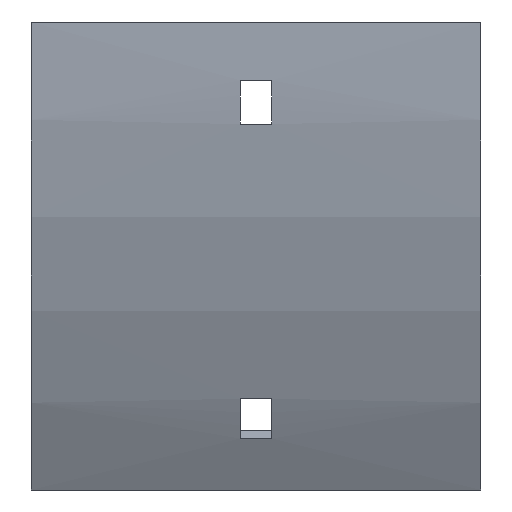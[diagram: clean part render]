
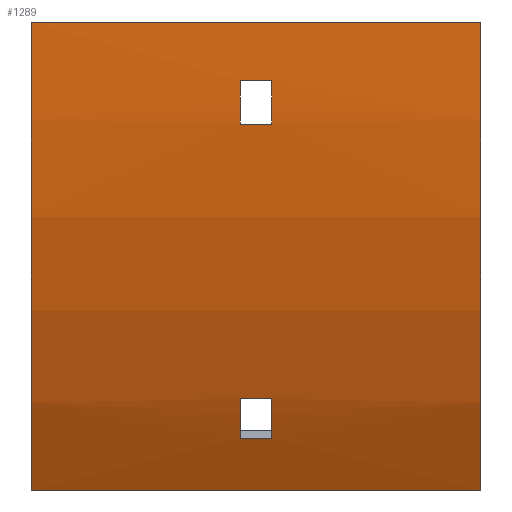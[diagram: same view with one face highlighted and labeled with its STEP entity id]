
A CAD part, front view. The second image highlights one B-rep face of the part: STEP entity #1289.
In plain terms, the highlighted cylindrical face has radius 192.5 mm (diameter 385 mm), a partial arc.
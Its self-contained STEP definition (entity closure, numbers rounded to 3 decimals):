
#9 = EDGE_CURVE ( 'NONE', #165, #1529, #57, .T. ) ;
#10 = CARTESIAN_POINT ( 'NONE',  ( -3.25, -91.351, -21. ) ) ;
#26 = CARTESIAN_POINT ( 'NONE',  ( 46.25, -92.5, 0. ) ) ;
#28 = EDGE_CURVE ( 'NONE', #845, #208, #1522, .T. ) ;
#46 = CYLINDRICAL_SURFACE ( 'NONE', #563, 192.5 ) ;
#57 = CIRCLE ( 'NONE', #1500, 192.5 ) ;
#78 = CARTESIAN_POINT ( 'NONE',  ( -3.25, -72.386, -85.671 ) ) ;
#83 = DIRECTION ( 'NONE',  ( 1., 0., 0. ) ) ;
#85 = VECTOR ( 'NONE', #467, 1000. ) ;
#103 = CARTESIAN_POINT ( 'NONE',  ( 3.25, 100., 0. ) ) ;
#113 = EDGE_LOOP ( 'NONE', ( #202, #122, #345, #1007 ) ) ;
#122 = ORIENTED_EDGE ( 'NONE', *, *, #172, .T. ) ;
#150 = DIRECTION ( 'NONE',  ( -1., 0., 0. ) ) ;
#155 = VERTEX_POINT ( 'NONE', #228 ) ;
#158 = FACE_BOUND ( 'NONE', #113, .T. ) ;
#165 = VERTEX_POINT ( 'NONE', #941 ) ;
#172 = EDGE_CURVE ( 'NONE', #809, #845, #1345, .T. ) ;
#179 = VERTEX_POINT ( 'NONE', #675 ) ;
#181 = FACE_BOUND ( 'NONE', #957, .T. ) ;
#196 = VECTOR ( 'NONE', #294, 1000. ) ;
#202 = ORIENTED_EDGE ( 'NONE', *, *, #1510, .T. ) ;
#208 = VERTEX_POINT ( 'NONE', #426 ) ;
#228 = CARTESIAN_POINT ( 'NONE',  ( -46.25, -66.71, -96.25 ) ) ;
#230 = ORIENTED_EDGE ( 'NONE', *, *, #791, .F. ) ;
#234 = LINE ( 'NONE', #337, #1060 ) ;
#278 = CARTESIAN_POINT ( 'NONE',  ( 3.25, -91.351, -21. ) ) ;
#284 = CARTESIAN_POINT ( 'NONE',  ( -3.25, 100., 0. ) ) ;
#294 = DIRECTION ( 'NONE',  ( -1., 0., 0. ) ) ;
#334 = ORIENTED_EDGE ( 'NONE', *, *, #1422, .F. ) ;
#337 = CARTESIAN_POINT ( 'NONE',  ( 46.25, -66.71, -96.25 ) ) ;
#342 = DIRECTION ( 'NONE',  ( 1., 0., 0. ) ) ;
#345 = ORIENTED_EDGE ( 'NONE', *, *, #28, .T. ) ;
#357 = DIRECTION ( 'NONE',  ( -1., 0., 0. ) ) ;
#376 = ORIENTED_EDGE ( 'NONE', *, *, #935, .T. ) ;
#403 = DIRECTION ( 'NONE',  ( 0., 0., 1. ) ) ;
#405 = AXIS2_PLACEMENT_3D ( 'NONE', #543, #1438, #1065 ) ;
#423 = VECTOR ( 'NONE', #357, 1000. ) ;
#426 = CARTESIAN_POINT ( 'NONE',  ( 3.25, -92.126, -12. ) ) ;
#428 = EDGE_CURVE ( 'NONE', #1529, #1334, #782, .T. ) ;
#447 = CARTESIAN_POINT ( 'NONE',  ( 46.25, 100., 0. ) ) ;
#460 = DIRECTION ( 'NONE',  ( -1., 0., 0. ) ) ;
#467 = DIRECTION ( 'NONE',  ( 1., 0., 0. ) ) ;
#477 = AXIS2_PLACEMENT_3D ( 'NONE', #1207, #689, #1601 ) ;
#506 = VERTEX_POINT ( 'NONE', #980 ) ;
#541 = EDGE_LOOP ( 'NONE', ( #376, #334, #1279, #1674 ) ) ;
#543 = CARTESIAN_POINT ( 'NONE',  ( -3.25, 100., 0. ) ) ;
#545 = DIRECTION ( 'NONE',  ( 1., 0., 0. ) ) ;
#563 = AXIS2_PLACEMENT_3D ( 'NONE', #447, #1480, #582 ) ;
#582 = DIRECTION ( 'NONE',  ( 0., 0., 1. ) ) ;
#611 = CIRCLE ( 'NONE', #1054, 192.5 ) ;
#633 = EDGE_CURVE ( 'NONE', #208, #1616, #846, .T. ) ;
#675 = CARTESIAN_POINT ( 'NONE',  ( 46.25, -66.71, -96.25 ) ) ;
#689 = DIRECTION ( 'NONE',  ( 1., 0., 0. ) ) ;
#711 = FACE_OUTER_BOUND ( 'NONE', #541, .T. ) ;
#737 = EDGE_CURVE ( 'NONE', #784, #179, #611, .T. ) ;
#748 = CARTESIAN_POINT ( 'NONE',  ( 46.25, -91.351, -21. ) ) ;
#766 = DIRECTION ( 'NONE',  ( -1., 0., 0. ) ) ;
#773 = AXIS2_PLACEMENT_3D ( 'NONE', #284, #150, #403 ) ;
#782 = LINE ( 'NONE', #1681, #792 ) ;
#784 = VERTEX_POINT ( 'NONE', #26 ) ;
#791 = EDGE_CURVE ( 'NONE', #1464, #165, #1188, .T. ) ;
#792 = VECTOR ( 'NONE', #766, 1000. ) ;
#809 = VERTEX_POINT ( 'NONE', #10 ) ;
#845 = VERTEX_POINT ( 'NONE', #1688 ) ;
#846 = CIRCLE ( 'NONE', #1075, 192.5 ) ;
#862 = DIRECTION ( 'NONE',  ( 0., 0., -1. ) ) ;
#895 = CARTESIAN_POINT ( 'NONE',  ( 3.25, -76.215, -77.489 ) ) ;
#913 = EDGE_CURVE ( 'NONE', #784, #506, #1228, .T. ) ;
#935 = EDGE_CURVE ( 'NONE', #506, #155, #1484, .T. ) ;
#941 = CARTESIAN_POINT ( 'NONE',  ( 3.25, -72.386, -85.671 ) ) ;
#957 = EDGE_LOOP ( 'NONE', ( #1443, #1509, #1518, #230 ) ) ;
#975 = DIRECTION ( 'NONE',  ( -1., 0., 0. ) ) ;
#976 = CARTESIAN_POINT ( 'NONE',  ( 46.25, -92.5, 0. ) ) ;
#980 = CARTESIAN_POINT ( 'NONE',  ( -46.25, -92.5, 0. ) ) ;
#990 = CARTESIAN_POINT ( 'NONE',  ( 46.25, 100., 0. ) ) ;
#1007 = ORIENTED_EDGE ( 'NONE', *, *, #633, .T. ) ;
#1048 = VECTOR ( 'NONE', #545, 1000. ) ;
#1054 = AXIS2_PLACEMENT_3D ( 'NONE', #990, #342, #862 ) ;
#1060 = VECTOR ( 'NONE', #975, 1000. ) ;
#1065 = DIRECTION ( 'NONE',  ( 0., 0., -1. ) ) ;
#1075 = AXIS2_PLACEMENT_3D ( 'NONE', #103, #83, #1131 ) ;
#1120 = CARTESIAN_POINT ( 'NONE',  ( 3.25, 100., 0. ) ) ;
#1131 = DIRECTION ( 'NONE',  ( 0., 0., -1. ) ) ;
#1188 = LINE ( 'NONE', #1454, #1048 ) ;
#1207 = CARTESIAN_POINT ( 'NONE',  ( -46.25, 100., 0. ) ) ;
#1218 = CIRCLE ( 'NONE', #405, 192.5 ) ;
#1219 = EDGE_CURVE ( 'NONE', #1334, #1464, #1218, .T. ) ;
#1228 = LINE ( 'NONE', #976, #196 ) ;
#1279 = ORIENTED_EDGE ( 'NONE', *, *, #737, .F. ) ;
#1289 = ADVANCED_FACE ( 'NONE', ( #711, #158, #181 ), #46, .T. ) ;
#1334 = VERTEX_POINT ( 'NONE', #1600 ) ;
#1345 = CIRCLE ( 'NONE', #773, 192.5 ) ;
#1402 = CARTESIAN_POINT ( 'NONE',  ( 46.25, -92.126, -12. ) ) ;
#1422 = EDGE_CURVE ( 'NONE', #179, #155, #234, .T. ) ;
#1438 = DIRECTION ( 'NONE',  ( 1., 0., 0. ) ) ;
#1443 = ORIENTED_EDGE ( 'NONE', *, *, #1219, .F. ) ;
#1454 = CARTESIAN_POINT ( 'NONE',  ( 46.25, -72.386, -85.671 ) ) ;
#1464 = VERTEX_POINT ( 'NONE', #78 ) ;
#1480 = DIRECTION ( 'NONE',  ( -1., 0., 0. ) ) ;
#1484 = CIRCLE ( 'NONE', #477, 192.5 ) ;
#1500 = AXIS2_PLACEMENT_3D ( 'NONE', #1120, #460, #1634 ) ;
#1509 = ORIENTED_EDGE ( 'NONE', *, *, #428, .F. ) ;
#1510 = EDGE_CURVE ( 'NONE', #1616, #809, #1661, .T. ) ;
#1518 = ORIENTED_EDGE ( 'NONE', *, *, #9, .F. ) ;
#1522 = LINE ( 'NONE', #1402, #85 ) ;
#1529 = VERTEX_POINT ( 'NONE', #895 ) ;
#1600 = CARTESIAN_POINT ( 'NONE',  ( -3.25, -76.215, -77.489 ) ) ;
#1601 = DIRECTION ( 'NONE',  ( 0., 0., -1. ) ) ;
#1616 = VERTEX_POINT ( 'NONE', #278 ) ;
#1634 = DIRECTION ( 'NONE',  ( 0., 0., 1. ) ) ;
#1661 = LINE ( 'NONE', #748, #423 ) ;
#1674 = ORIENTED_EDGE ( 'NONE', *, *, #913, .T. ) ;
#1681 = CARTESIAN_POINT ( 'NONE',  ( 46.25, -76.215, -77.489 ) ) ;
#1688 = CARTESIAN_POINT ( 'NONE',  ( -3.25, -92.126, -12. ) ) ;
